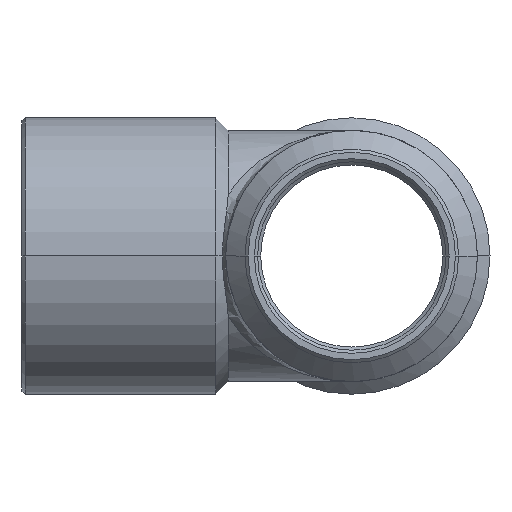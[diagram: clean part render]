
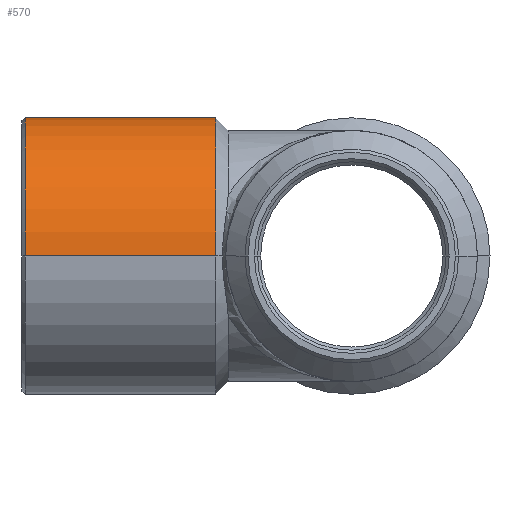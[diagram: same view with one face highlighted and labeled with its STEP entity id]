
A CAD part, left-side view. The second image highlights one B-rep face of the part: STEP entity #570.
In plain terms, the highlighted cylindrical face has radius 8.8 mm (diameter 17.6 mm), a partial arc.
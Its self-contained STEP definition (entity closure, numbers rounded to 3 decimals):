
#150=CARTESIAN_POINT('',(8.8,8.673,0.0));
#151=VERTEX_POINT('',#150);
#160=CARTESIAN_POINT('',(-8.8,8.673,0.));
#161=VERTEX_POINT('',#160);
#162=CARTESIAN_POINT('',(0.0,8.673,0.0));
#163=DIRECTION('',(0.0,-1.0,0.0));
#164=DIRECTION('',(1.0,0.0,0.0));
#165=AXIS2_PLACEMENT_3D('',#162,#163,#164);
#166=CIRCLE('',#165,8.8);
#167=EDGE_CURVE('',#151,#161,#166,.T.);
#539=CARTESIAN_POINT('',(0.0,14.837,0.0));
#540=DIRECTION('',(0.0,-1.0,0.0));
#541=DIRECTION('',(1.0,0.0,0.0));
#542=AXIS2_PLACEMENT_3D('',#539,#540,#541);
#543=CYLINDRICAL_SURFACE('',#542,8.8);
#544=CARTESIAN_POINT('',(8.8,20.8,0.));
#545=VERTEX_POINT('',#544);
#546=CARTESIAN_POINT('',(8.8,20.8,0.));
#547=DIRECTION('',(0.0,-1.0,0.0));
#548=VECTOR('',#547,12.127);
#549=LINE('',#546,#548);
#550=EDGE_CURVE('',#545,#151,#549,.T.);
#551=ORIENTED_EDGE('',*,*,#550,.F.);
#552=CARTESIAN_POINT('',(-8.8,20.8,0.));
#553=VERTEX_POINT('',#552);
#554=CARTESIAN_POINT('',(0.0,20.8,0.0));
#555=DIRECTION('',(0.0,1.0,0.0));
#556=DIRECTION('',(-1.0,0.0,0.0));
#557=AXIS2_PLACEMENT_3D('',#554,#555,#556);
#558=CIRCLE('',#557,8.8);
#559=EDGE_CURVE('',#553,#545,#558,.T.);
#560=ORIENTED_EDGE('',*,*,#559,.F.);
#561=CARTESIAN_POINT('',(-8.8,8.673,0.));
#562=DIRECTION('',(0.0,1.0,0.0));
#563=VECTOR('',#562,12.127);
#564=LINE('',#561,#563);
#565=EDGE_CURVE('',#161,#553,#564,.T.);
#566=ORIENTED_EDGE('',*,*,#565,.F.);
#567=ORIENTED_EDGE('',*,*,#167,.F.);
#568=EDGE_LOOP('',(#551,#560,#566,#567));
#569=FACE_OUTER_BOUND('',#568,.T.);
#570=ADVANCED_FACE('',(#569),#543,.T.);
